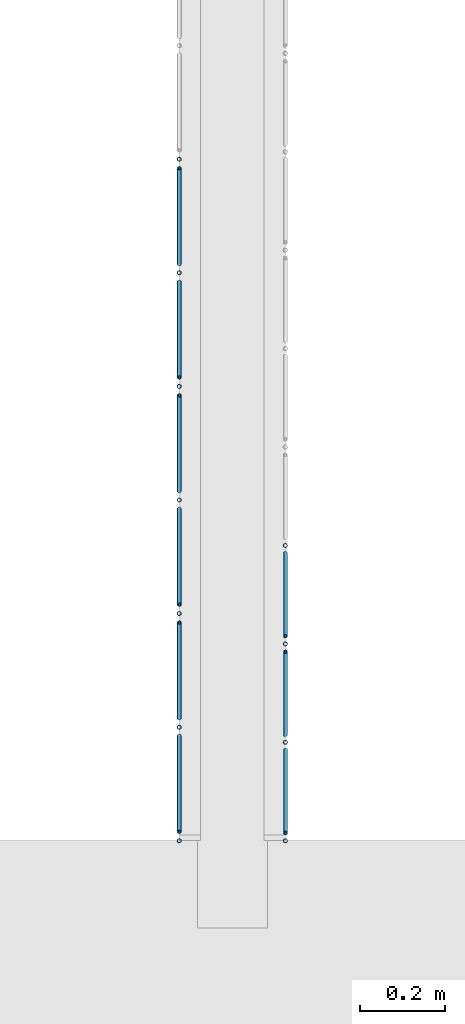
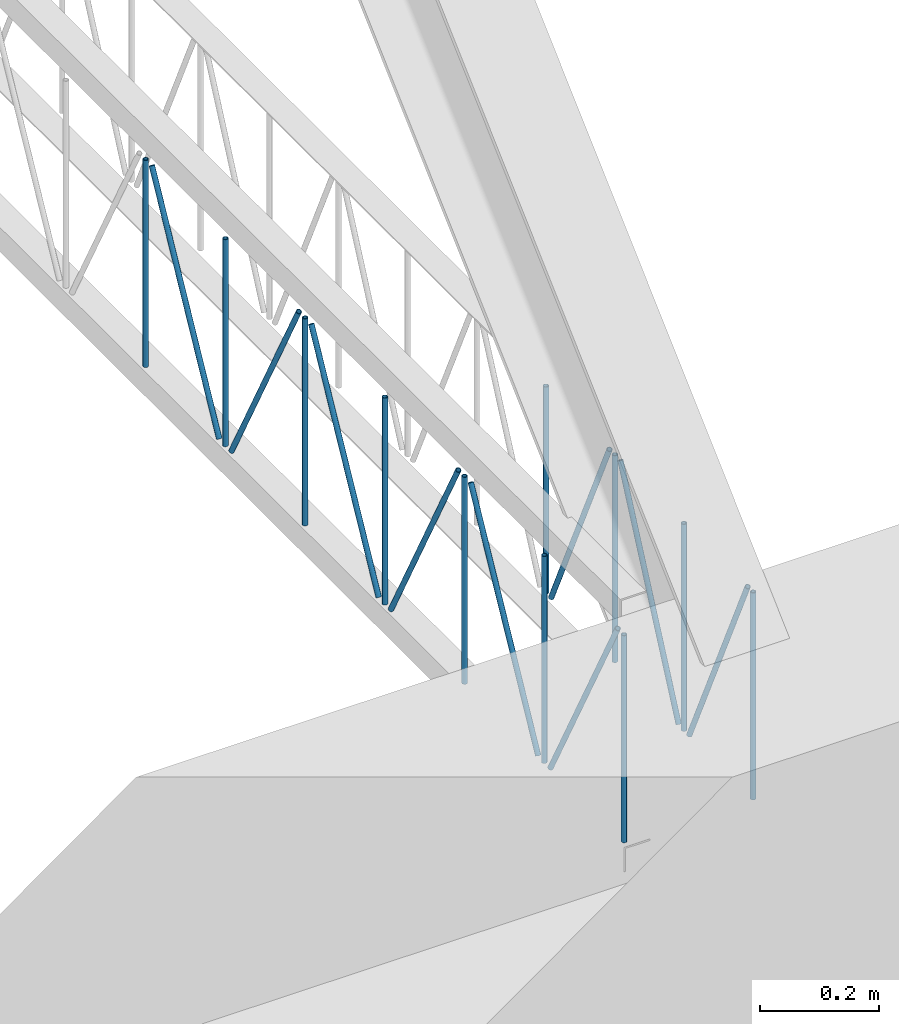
# One storey, part 84 of 153: 20 members, 2 elements without a shape of their own.
"""IFC4 building model written with IfcOpenShell, lengths in metres."""

from ifc_helpers import new_model, entity, si_unit, converted_unit, derived_unit, direction, frame, origin, place, context, subcontext, project, spatial, arc, indexed_curve, outline, extrude, source, transform, mapped, material, type_object, type_shapes, element, aggregate, save


model = new_model("IFC4")

# Units and contexts
model_context = context("Model", 3, precision=1e-05, world=origin(), true_north=direction((6.123031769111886e-17, 1.0)))
body_context = subcontext(model_context, "Body", "Model", "MODEL_VIEW")
ifc_project = project(units=[si_unit("LENGTHUNIT", "METRE"), si_unit("AREAUNIT", "SQUARE_METRE"), si_unit("VOLUMEUNIT", "CUBIC_METRE"), converted_unit("PLANEANGLEUNIT", "DEGREE", entity("IfcRatioMeasure", 0.017453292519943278), si_unit("PLANEANGLEUNIT", "RADIAN"), dimensions=[0, 0, 0, 0, 0, 0, 0]), si_unit("MASSUNIT", "GRAM", prefix="KILO"), derived_unit("MASSDENSITYUNIT", [(si_unit("MASSUNIT", "GRAM", prefix="KILO"), 1), (si_unit("LENGTHUNIT", "METRE"), -3)]), derived_unit("MOMENTOFINERTIAUNIT", [(si_unit("LENGTHUNIT", "METRE"), 4)]), si_unit("TIMEUNIT", "SECOND"), si_unit("FREQUENCYUNIT", "HERTZ"), si_unit("THERMODYNAMICTEMPERATUREUNIT", "DEGREE_CELSIUS"), derived_unit("THERMALTRANSMITTANCEUNIT", [(si_unit("MASSUNIT", "GRAM", prefix="KILO"), 1), (si_unit("THERMODYNAMICTEMPERATUREUNIT", "KELVIN"), -1), (si_unit("TIMEUNIT", "SECOND"), -3)]), derived_unit("VOLUMETRICFLOWRATEUNIT", [(si_unit("LENGTHUNIT", "METRE"), 3), (si_unit("TIMEUNIT", "SECOND"), -1)]), derived_unit("MASSFLOWRATEUNIT", [(si_unit("MASSUNIT", "GRAM", prefix="KILO"), 1), (si_unit("TIMEUNIT", "SECOND"), -1)]), derived_unit("ROTATIONALFREQUENCYUNIT", [(si_unit("TIMEUNIT", "SECOND"), -1)]), si_unit("ELECTRICCURRENTUNIT", "AMPERE"), si_unit("ELECTRICVOLTAGEUNIT", "VOLT"), si_unit("POWERUNIT", "WATT"), si_unit("FORCEUNIT", "NEWTON", prefix="KILO"), si_unit("ILLUMINANCEUNIT", "LUX"), si_unit("LUMINOUSFLUXUNIT", "LUMEN"), si_unit("LUMINOUSINTENSITYUNIT", "CANDELA"), derived_unit("USERDEFINED", [(si_unit("MASSUNIT", "GRAM", prefix="KILO"), -1), (si_unit("LENGTHUNIT", "METRE"), -2), (si_unit("TIMEUNIT", "SECOND"), 3), (si_unit("LUMINOUSFLUXUNIT", "LUMEN"), 1)]), derived_unit("SOUNDPOWERUNIT", [(si_unit("MASSUNIT", "GRAM", prefix="KILO"), 1), (si_unit("LENGTHUNIT", "METRE"), 2), (si_unit("TIMEUNIT", "SECOND"), -3)]), derived_unit("SOUNDPRESSUREUNIT", [(si_unit("MASSUNIT", "GRAM", prefix="KILO"), 1), (si_unit("LENGTHUNIT", "METRE"), -1), (si_unit("TIMEUNIT", "SECOND"), -2)]), derived_unit("LINEARVELOCITYUNIT", [(si_unit("LENGTHUNIT", "METRE"), 1), (si_unit("TIMEUNIT", "SECOND"), -1)]), si_unit("PRESSUREUNIT", "PASCAL"), derived_unit("USERDEFINED", [(si_unit("LENGTHUNIT", "METRE"), -2), (si_unit("MASSUNIT", "GRAM", prefix="KILO"), 1), (si_unit("TIMEUNIT", "SECOND"), -2)]), derived_unit("LINEARFORCEUNIT", [(si_unit("MASSUNIT", "GRAM", prefix="KILO"), 1), (si_unit("LENGTHUNIT", "METRE"), 1), (si_unit("TIMEUNIT", "SECOND"), -2), (si_unit("LENGTHUNIT", "METRE"), -1)]), derived_unit("PLANARFORCEUNIT", [(si_unit("MASSUNIT", "GRAM", prefix="KILO"), 1), (si_unit("LENGTHUNIT", "METRE"), 1), (si_unit("TIMEUNIT", "SECOND"), -2), (si_unit("LENGTHUNIT", "METRE"), -2)])], contexts=[model_context])

# Site, building, storey
site_placement = place(None, origin())
site = spatial("IfcSite", under=ifc_project, at=site_placement, Name="Superficie", CompositionType="ELEMENT")
building_placement = place(site_placement, origin())
building = spatial("IfcBuilding", under=site, at=building_placement, CompositionType="ELEMENT")
storey_placement = place(building_placement, frame((0.0, 0.0, 3.5999999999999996)))
storey = spatial("IfcBuildingStorey", under=building, at=storey_placement, Name="Nivel 1", CompositionType="ELEMENT", Elevation=3.5999999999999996)

# Assembly, members
assembly_1_placement = place(storey_placement, origin())
assembly_1 = element("IfcElementAssembly", 1, at=assembly_1_placement, inside=storey, Name="Viga de celosia 13:Viga de celosia 13", ObjectType="Viga de celosia 13:Viga de celosia 13", AssemblyPlace="NOTDEFINED", PredefinedType="TRUSS")
ifc_material = material(Name="Metal - Calibre delgado", Category="Metal")
member_type_1 = type_object("IfcMemberType", Name="HSS-Tubo estructural redondo:HSS 0.01", PredefinedType="BRACE", material=ifc_material)
shared_shape_1 = source(origin(), body_context, "Body", "SweptSolid", [
    extrude(outline(indexed_curve([(-0.005000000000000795, 7.502054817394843e-18), (-9.800269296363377e-18, -0.005000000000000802), (0.005000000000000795, -7.502054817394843e-18), (8.07772287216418e-18, 0.005000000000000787)], segments=[arc(1, 2, 3), arc(3, 4, 1)], self_intersect=False), holes=[indexed_curve([(0.003999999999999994, 7.222511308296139e-17), (6.910645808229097e-17, -0.004000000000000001), (-0.003999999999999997, -1.8650054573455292e-17), (-2.9156497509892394e-17, 0.003999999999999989)], segments=[arc(1, 2, 3), arc(3, 4, 1)], self_intersect=False)]), frame((-0.21200000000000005, 0.0, 0.0), z_axis=(1.0, 0.0, 0.0), x_axis=(0.0, 1.0, 0.0)), (0.0, 0.0, 1.0), 0.4240000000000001),
])
type_shapes(member_type_1, [shared_shape_1])
member_1_placement = place(assembly_1_placement, frame((15.836799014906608, -12.943502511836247, 0.25), z_axis=(0.0, 1.0, 0.0), x_axis=(0.0, 0.0, 1.0)))
member_1 = element("IfcMember", 2, at=member_1_placement, type_object=member_type_1, material=ifc_material, Name="HSS-Tubo estructural redondo:HSS 0.01", ObjectType="HSS-Tubo estructural redondo:HSS 0.01", PredefinedType="BRACE", context=body_context, shape_type="MappedRepresentation", body=[
    mapped(shared_shape_1, transform((0.0, 0.0, 0.0), scale=1.0)),
])
member_2_placement = place(assembly_1_placement, frame((15.836799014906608, -12.676002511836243, 0.25), z_axis=(0.0, 1.0, 0.0), x_axis=(0.0, 0.0, 1.0)))
member_2 = element("IfcMember", 3, at=member_2_placement, type_object=member_type_1, material=ifc_material, Name="HSS-Tubo estructural redondo:HSS 0.01", ObjectType="HSS-Tubo estructural redondo:HSS 0.01", PredefinedType="BRACE", context=body_context, shape_type="MappedRepresentation", body=[
    mapped(shared_shape_1, transform((0.0, 0.0, 0.0), scale=1.0)),
])
member_3_placement = place(assembly_1_placement, frame((15.836799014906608, -12.408502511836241, 0.25), z_axis=(0.0, 1.0, 0.0), x_axis=(0.0, 0.0, 1.0)))
member_3 = element("IfcMember", 4, at=member_3_placement, type_object=member_type_1, material=ifc_material, Name="HSS-Tubo estructural redondo:HSS 0.01", ObjectType="HSS-Tubo estructural redondo:HSS 0.01", PredefinedType="BRACE", context=body_context, shape_type="MappedRepresentation", body=[
    mapped(shared_shape_1, transform((0.0, 0.0, 0.0), scale=1.0)),
])
member_4_placement = place(assembly_1_placement, frame((15.83679901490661, -12.14100251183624, 0.25), z_axis=(0.0, 1.0, 0.0), x_axis=(0.0, 0.0, 1.0)))
member_4 = element("IfcMember", 5, at=member_4_placement, type_object=member_type_1, material=ifc_material, Name="HSS-Tubo estructural redondo:HSS 0.01", ObjectType="HSS-Tubo estructural redondo:HSS 0.01", PredefinedType="BRACE", context=body_context, shape_type="MappedRepresentation", body=[
    mapped(shared_shape_1, transform((0.0, 0.0, 0.0), scale=1.0)),
])
member_5_placement = place(assembly_1_placement, frame((15.83679901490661, -11.873502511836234, 0.25), z_axis=(0.0, 1.0, 0.0), x_axis=(0.0, 0.0, 1.0)))
member_5 = element("IfcMember", 6, at=member_5_placement, type_object=member_type_1, material=ifc_material, Name="HSS-Tubo estructural redondo:HSS 0.01", ObjectType="HSS-Tubo estructural redondo:HSS 0.01", PredefinedType="BRACE", context=body_context, shape_type="MappedRepresentation", body=[
    mapped(shared_shape_1, transform((0.0, 0.0, 0.0), scale=1.0)),
])
member_6_placement = place(assembly_1_placement, frame((15.83679901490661, -11.606002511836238, 0.25), z_axis=(0.0, 1.0, 0.0), x_axis=(0.0, 0.0, 1.0)))
member_6 = element("IfcMember", 7, at=member_6_placement, type_object=member_type_1, material=ifc_material, Name="HSS-Tubo estructural redondo:HSS 0.01", ObjectType="HSS-Tubo estructural redondo:HSS 0.01", PredefinedType="BRACE", context=body_context, shape_type="MappedRepresentation", body=[
    mapped(shared_shape_1, transform((0.0, 0.0, 0.0), scale=1.0)),
])
member_7_placement = place(assembly_1_placement, frame((15.83679901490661, -11.338502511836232, 0.25), z_axis=(0.0, 1.0, 0.0), x_axis=(0.0, 0.0, 1.0)))
member_7 = element("IfcMember", 8, at=member_7_placement, type_object=member_type_1, material=ifc_material, Name="HSS-Tubo estructural redondo:HSS 0.01", ObjectType="HSS-Tubo estructural redondo:HSS 0.01", PredefinedType="BRACE", context=body_context, shape_type="MappedRepresentation", body=[
    mapped(shared_shape_1, transform((0.0, 0.0, 0.0), scale=1.0)),
])

assembly_2_placement = place(storey_placement, origin())
assembly_2 = element("IfcElementAssembly", 9, at=assembly_2_placement, inside=storey, Name="Viga de celosia 13:Viga de celosia 13", ObjectType="Viga de celosia 13:Viga de celosia 13", AssemblyPlace="NOTDEFINED", PredefinedType="TRUSS")
member_type_2 = type_object("IfcMemberType", Name="HSS-Tubo estructural redondo:HSS 0.01", PredefinedType="BRACE", material=ifc_material)
shared_shape_2 = source(origin(), body_context, "Body", "SweptSolid", [
    extrude(outline(indexed_curve([(-0.005000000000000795, 2.0824731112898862e-17), (-2.3122945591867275e-17, -0.005000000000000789), (0.005000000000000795, -2.08247311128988e-17), (2.14003991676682e-17, 0.005000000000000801)], segments=[arc(1, 2, 3), arc(3, 4, 1)], self_intersect=False), holes=[indexed_curve([(0.003999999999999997, -1.3094283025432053e-17), (-1.531427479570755e-18, -0.003999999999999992), (-0.004, 4.0098531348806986e-17), (4.1481388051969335e-17, 0.0039999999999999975)], segments=[arc(1, 2, 3), arc(3, 4, 1)], self_intersect=False)]), frame((-0.21200000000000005, 0.0, 0.0), z_axis=(1.0, 0.0, 0.0), x_axis=(0.0, -1.0, 0.0)), (0.0, 0.0, 1.0), 0.4240000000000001),
])
type_shapes(member_type_2, [shared_shape_2])
member_8_placement = place(assembly_2_placement, frame((16.086799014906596, -12.943502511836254, 0.25), z_axis=(0.0, 1.0, 0.0), x_axis=(0.0, 0.0, 1.0)))
member_8 = element("IfcMember", 10, at=member_8_placement, type_object=member_type_2, material=ifc_material, Name="HSS-Tubo estructural redondo:HSS 0.01", ObjectType="HSS-Tubo estructural redondo:HSS 0.01", PredefinedType="BRACE", context=body_context, shape_type="MappedRepresentation", body=[
    mapped(shared_shape_2, transform((0.0, 0.0, 0.0), scale=1.0)),
])
member_9_placement = place(assembly_2_placement, frame((16.086799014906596, -12.711716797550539, 0.25), z_axis=(0.0, 1.0, 0.0), x_axis=(0.0, 0.0, 1.0)))
member_9 = element("IfcMember", 11, at=member_9_placement, type_object=member_type_2, material=ifc_material, Name="HSS-Tubo estructural redondo:HSS 0.01", ObjectType="HSS-Tubo estructural redondo:HSS 0.01", PredefinedType="BRACE", context=body_context, shape_type="MappedRepresentation", body=[
    mapped(shared_shape_2, transform((0.0, 0.0, 0.0), scale=1.0)),
])
member_10_placement = place(assembly_2_placement, frame((16.086799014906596, -12.47993108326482, 0.25), z_axis=(0.0, 1.0, 0.0), x_axis=(0.0, 0.0, 1.0)))
member_10 = element("IfcMember", 12, at=member_10_placement, type_object=member_type_2, material=ifc_material, Name="HSS-Tubo estructural redondo:HSS 0.01", ObjectType="HSS-Tubo estructural redondo:HSS 0.01", PredefinedType="BRACE", context=body_context, shape_type="MappedRepresentation", body=[
    mapped(shared_shape_2, transform((0.0, 0.0, 0.0), scale=1.0)),
])
member_11_placement = place(assembly_2_placement, frame((16.086799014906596, -12.248145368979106, 0.25), z_axis=(0.0, 1.0, 0.0), x_axis=(0.0, 0.0, 1.0)))
member_11 = element("IfcMember", 13, at=member_11_placement, type_object=member_type_2, material=ifc_material, Name="HSS-Tubo estructural redondo:HSS 0.01", ObjectType="HSS-Tubo estructural redondo:HSS 0.01", PredefinedType="BRACE", context=body_context, shape_type="MappedRepresentation", body=[
    mapped(shared_shape_2, transform((0.0, 0.0, 0.0), scale=1.0)),
])

# Member
member_type_3 = type_object("IfcMemberType", Name="HSS-Tubo estructural redondo:HSS 0.01", PredefinedType="BRACE", material=ifc_material)
shared_shape_3 = source(origin(), body_context, "Body", "SweptSolid", [
    extrude(outline(indexed_curve([(-0.005000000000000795, 7.502054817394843e-18), (-9.800269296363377e-18, -0.005000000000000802), (0.005000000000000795, -7.502054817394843e-18), (8.07772287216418e-18, 0.005000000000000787)], segments=[arc(1, 2, 3), arc(3, 4, 1)], self_intersect=False), holes=[indexed_curve([(0.003999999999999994, 7.222511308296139e-17), (6.910645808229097e-17, -0.004000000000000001), (-0.003999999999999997, -1.8650054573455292e-17), (-2.9156497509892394e-17, 0.003999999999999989)], segments=[arc(1, 2, 3), arc(3, 4, 1)], self_intersect=False)]), frame((-0.23950000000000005, 0.0, 0.0), z_axis=(1.0, 0.0, 0.0), x_axis=(0.0, 1.0, 0.0)), (0.0, 0.0, 1.0), 0.4790000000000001),
])
type_shapes(member_type_3, [shared_shape_3])
member_12_placement = place(assembly_1_placement, frame((15.836799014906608, -12.809752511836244, 0.25), z_axis=(0.0, -0.8817419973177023, -0.47173196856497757), x_axis=(0.0, 0.47173196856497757, -0.8817419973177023)))
member_12 = element("IfcMember", 14, at=member_12_placement, type_object=member_type_3, material=ifc_material, Name="HSS-Tubo estructural redondo:HSS 0.01", ObjectType="HSS-Tubo estructural redondo:HSS 0.01", PredefinedType="BRACE", context=body_context, shape_type="MappedRepresentation", body=[
    mapped(shared_shape_3, transform((0.0, 0.0, 0.0), scale=1.0)),
])

member_13_placement = place(assembly_1_placement, frame((15.836799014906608, -12.542252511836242, 0.25), z_axis=(0.0, 0.881741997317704, -0.47173196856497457), x_axis=(0.0, 0.47173196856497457, 0.881741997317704)))
member_13 = element("IfcMember", 15, at=member_13_placement, type_object=member_type_3, material=ifc_material, Name="HSS-Tubo estructural redondo:HSS 0.01", ObjectType="HSS-Tubo estructural redondo:HSS 0.01", PredefinedType="BRACE", context=body_context, shape_type="MappedRepresentation", body=[
    mapped(shared_shape_3, transform((0.0, 0.0, 0.0), scale=1.0)),
])

member_14_placement = place(assembly_1_placement, frame((15.836799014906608, -12.27475251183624, 0.25), z_axis=(0.0, -0.8817419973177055, -0.4717319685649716), x_axis=(0.0, 0.4717319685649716, -0.8817419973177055)))
member_14 = element("IfcMember", 16, at=member_14_placement, type_object=member_type_3, material=ifc_material, Name="HSS-Tubo estructural redondo:HSS 0.01", ObjectType="HSS-Tubo estructural redondo:HSS 0.01", PredefinedType="BRACE", context=body_context, shape_type="MappedRepresentation", body=[
    mapped(shared_shape_3, transform((0.0, 0.0, 0.0), scale=1.0)),
])

member_15_placement = place(assembly_1_placement, frame((15.83679901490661, -12.007252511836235, 0.25), z_axis=(0.0, 0.8817419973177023, -0.47173196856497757), x_axis=(0.0, 0.47173196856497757, 0.8817419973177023)))
member_15 = element("IfcMember", 17, at=member_15_placement, type_object=member_type_3, material=ifc_material, Name="HSS-Tubo estructural redondo:HSS 0.01", ObjectType="HSS-Tubo estructural redondo:HSS 0.01", PredefinedType="BRACE", context=body_context, shape_type="MappedRepresentation", body=[
    mapped(shared_shape_3, transform((0.0, 0.0, 0.0), scale=1.0)),
])

member_16_placement = place(assembly_1_placement, frame((15.83679901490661, -11.739752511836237, 0.25), z_axis=(0.0, -0.8817419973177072, -0.4717319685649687), x_axis=(0.0, 0.4717319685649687, -0.8817419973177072)))
member_16 = element("IfcMember", 18, at=member_16_placement, type_object=member_type_3, material=ifc_material, Name="HSS-Tubo estructural redondo:HSS 0.01", ObjectType="HSS-Tubo estructural redondo:HSS 0.01", PredefinedType="BRACE", context=body_context, shape_type="MappedRepresentation", body=[
    mapped(shared_shape_3, transform((0.0, 0.0, 0.0), scale=1.0)),
])

member_17_placement = place(assembly_1_placement, frame((15.83679901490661, -11.472252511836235, 0.2500000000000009), z_axis=(0.0, 0.8817419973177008, -0.4717319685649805), x_axis=(0.0, 0.4717319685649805, 0.8817419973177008)))
member_17 = element("IfcMember", 19, at=member_17_placement, type_object=member_type_3, material=ifc_material, Name="HSS-Tubo estructural redondo:HSS 0.01", ObjectType="HSS-Tubo estructural redondo:HSS 0.01", PredefinedType="BRACE", context=body_context, shape_type="MappedRepresentation", body=[
    mapped(shared_shape_3, transform((0.0, 0.0, 0.0), scale=1.0)),
])

aggregate(assembly_1, [member_1, member_2, member_3, member_4, member_5, member_6, member_7, member_12, member_13, member_14, member_15, member_16, member_17])

member_type_4 = type_object("IfcMemberType", Name="HSS-Tubo estructural redondo:HSS 0.01", PredefinedType="BRACE", material=ifc_material)
shared_shape_4 = source(origin(), body_context, "Body", "SweptSolid", [
    extrude(outline(indexed_curve([(-0.005000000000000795, 2.0824731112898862e-17), (-2.3122945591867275e-17, -0.005000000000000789), (0.005000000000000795, -2.08247311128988e-17), (2.14003991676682e-17, 0.005000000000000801)], segments=[arc(1, 2, 3), arc(3, 4, 1)], self_intersect=False), holes=[indexed_curve([(0.003999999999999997, -1.3094283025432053e-17), (-1.531427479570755e-18, -0.003999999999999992), (-0.004, 4.0098531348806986e-17), (4.1481388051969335e-17, 0.0039999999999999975)], segments=[arc(1, 2, 3), arc(3, 4, 1)], self_intersect=False)]), frame((-0.2325, 0.0, 0.0), z_axis=(1.0, 0.0, 0.0), x_axis=(0.0, -1.0, 0.0)), (0.0, 0.0, 1.0), 0.465),
])
type_shapes(member_type_4, [shared_shape_4])
member_18_placement = place(assembly_2_placement, frame((16.086799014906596, -12.827609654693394, 0.25), z_axis=(0.0, -0.907256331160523, -0.4205781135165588), x_axis=(0.0, 0.4205781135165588, -0.907256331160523)))
member_18 = element("IfcMember", 20, at=member_18_placement, type_object=member_type_4, material=ifc_material, Name="HSS-Tubo estructural redondo:HSS 0.01", ObjectType="HSS-Tubo estructural redondo:HSS 0.01", PredefinedType="BRACE", context=body_context, shape_type="MappedRepresentation", body=[
    mapped(shared_shape_4, transform((0.0, 0.0, 0.0), scale=1.0)),
])

member_19_placement = place(assembly_2_placement, frame((16.086799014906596, -12.595823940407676, 0.25), z_axis=(0.0, 0.907256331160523, -0.4205781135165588), x_axis=(0.0, 0.4205781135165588, 0.907256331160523)))
member_19 = element("IfcMember", 21, at=member_19_placement, type_object=member_type_4, material=ifc_material, Name="HSS-Tubo estructural redondo:HSS 0.01", ObjectType="HSS-Tubo estructural redondo:HSS 0.01", PredefinedType="BRACE", context=body_context, shape_type="MappedRepresentation", body=[
    mapped(shared_shape_4, transform((0.0, 0.0, 0.0), scale=1.0)),
])

member_20_placement = place(assembly_2_placement, frame((16.086799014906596, -12.364038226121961, 0.25), z_axis=(0.0, -0.907256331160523, -0.4205781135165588), x_axis=(0.0, 0.4205781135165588, -0.907256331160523)))
member_20 = element("IfcMember", 22, at=member_20_placement, type_object=member_type_4, material=ifc_material, Name="HSS-Tubo estructural redondo:HSS 0.01", ObjectType="HSS-Tubo estructural redondo:HSS 0.01", PredefinedType="BRACE", context=body_context, shape_type="MappedRepresentation", body=[
    mapped(shared_shape_4, transform((0.0, 0.0, 0.0), scale=1.0)),
])

aggregate(assembly_2, [member_8, member_9, member_10, member_11, member_18, member_19, member_20])

save(model, "model.ifc")
